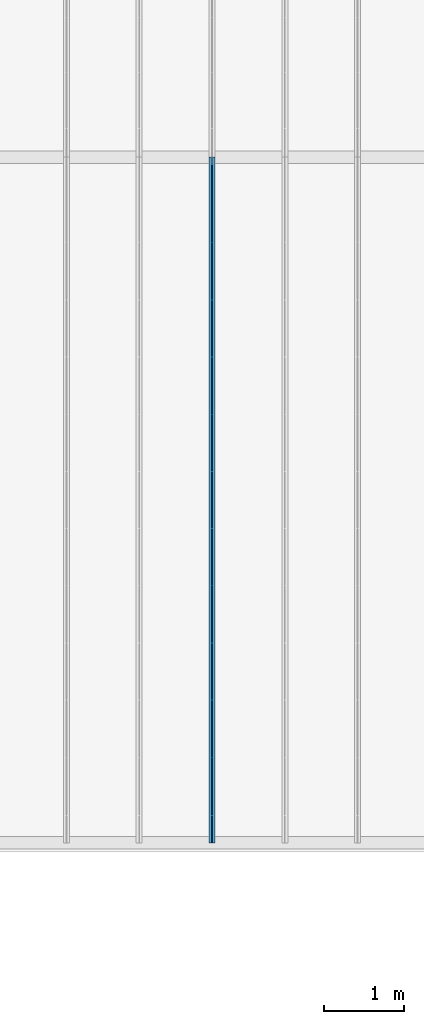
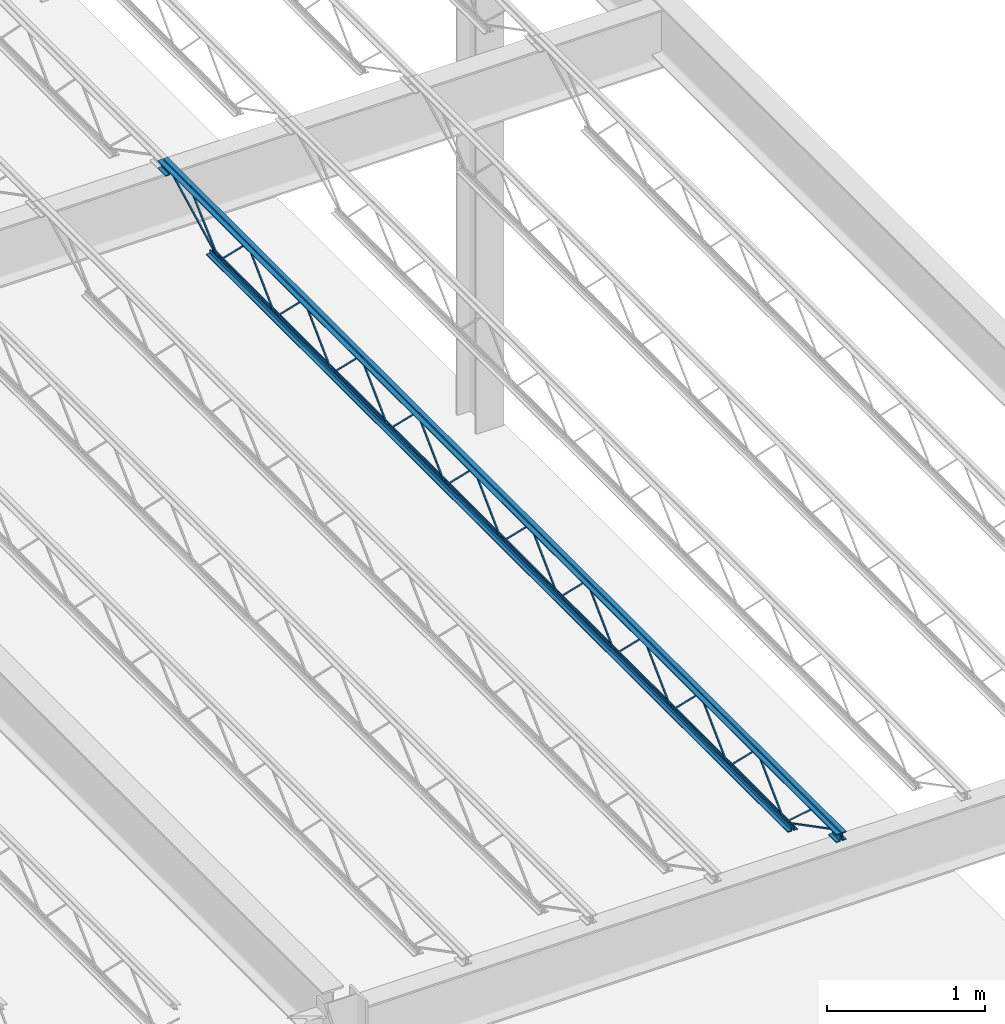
# One storey, part 67 of 119: 1 beam.
"""IFC2X3 building model written with IfcOpenShell, lengths in metres."""

import ifcopenshell
import ifcopenshell.guid

model = None  # the IFC model being written
_history = None  # IfcOwnerHistory: only IFC2X3 demands one
_inside = {}  # id of a spatial element -> (the spatial element, [elements in it])
_under = {}  # id of a project, library or spatial element -> (it, [spatial elements below it])
_declared = {}  # id of a project -> (the project, [libraries it declares])
_typed = {}  # id of a type object -> (the type object, [elements of that type])
_made_of = {}  # id of a material, layer set ... -> (it, [elements and type objects made of it])


def new_model(schema):
    """Start an empty IFC model of exactly this schema.

    Asked for "IFC4X3", IfcOpenShell would pick the latest addendum, in which some entities
    have other attributes; the version numbers below select the first issue.
    IFC2X3 requires an IfcOwnerHistory on every rooted entity: one is made here for all.
    """
    global model, _history
    if schema == "IFC4X3":
        model = ifcopenshell.file(schema_version=(4, 3, 0, 0))
    else:
        model = ifcopenshell.file(schema=schema)
    _inside.clear()
    _under.clear()
    _declared.clear()
    _typed.clear()
    _made_of.clear()
    _history = None
    if model.schema == "IFC2X3":
        org = make("IfcOrganization", Name="unknown")
        user = make(
            "IfcPersonAndOrganization",
            ThePerson=make("IfcPerson", FamilyName="unknown"),
            TheOrganization=org,
        )
        app = make(
            "IfcApplication",
            ApplicationDeveloper=org,
            Version="unknown",
            ApplicationFullName="unknown",
            ApplicationIdentifier="unknown",
        )
        _history = make(
            "IfcOwnerHistory",
            OwningUser=user,
            OwningApplication=app,
            ChangeAction="ADDED",
            CreationDate=0,
        )
    return model


def make(cls, **values):
    """One entity of the class cls with the attributes given. An attribute that is None is left unset."""
    return model.create_entity(
        cls, **{name: value for name, value in values.items() if value is not None}
    )


def entity(cls, *values):
    """Any entity or typed value of the class cls, its attributes in the order of the schema. None: left unset."""
    e = model.create_entity(cls)
    for i, value in enumerate(values):
        if value is not None:
            e[i] = value
    return e


def rooted(cls, **values):
    """An entity with a GlobalId (a new one), such as an element, a storey or a relation."""
    return make(cls, GlobalId=ifcopenshell.guid.new(), OwnerHistory=_history, **values)


def si_unit(unit_type, name, prefix=None):
    """IfcSIUnit, for example si_unit("LENGTHUNIT", "METRE", prefix="MILLI")."""
    return make("IfcSIUnit", UnitType=unit_type, Prefix=prefix, Name=name)


def converted_unit(unit_type, name, factor, base, dimensions=None, offset=None):
    """IfcConversionBasedUnit, such as the inch: factor (a typed value) times the base unit."""
    return make(
        "IfcConversionBasedUnit"
        if offset is None
        else "IfcConversionBasedUnitWithOffset",
        ConversionOffset=offset,
        Dimensions=None
        if dimensions is None
        else entity("IfcDimensionalExponents", *dimensions),
        UnitType=unit_type,
        Name=name,
        ConversionFactor=make(
            "IfcMeasureWithUnit", ValueComponent=factor, UnitComponent=base
        ),
    )


def assignment(units):
    """IfcUnitAssignment: the units of a project."""
    return None if units is None else make("IfcUnitAssignment", Units=units)


def point(xyz):
    """IfcCartesianPoint."""
    return None if xyz is None else make("IfcCartesianPoint", Coordinates=xyz)


def direction(xyz):
    """IfcDirection."""
    return None if xyz is None else make("IfcDirection", DirectionRatios=xyz)


def frame(location, z_axis=None, x_axis=None):
    """IfcAxis2Placement3D, a coordinate frame: its origin and axes. An axis left out is left unset."""
    return make(
        "IfcAxis2Placement3D",
        Location=point(location),
        Axis=direction(z_axis),
        RefDirection=direction(x_axis),
    )


def origin():
    """The frame at (0, 0, 0) with its axes left unset."""
    return frame((0.0, 0.0, 0.0))


def place(relative_to, where):
    """IfcLocalPlacement: puts the frame where relative to a parent placement (None: the world)."""
    return make(
        "IfcLocalPlacement", PlacementRelTo=relative_to, RelativePlacement=where
    )


def context(
    kind, dimensions, precision=None, world=None, true_north=None, identifier=None
):
    """IfcGeometricRepresentationContext, for example the 3D "Model" context."""
    return make(
        "IfcGeometricRepresentationContext",
        ContextIdentifier=identifier,
        ContextType=kind,
        CoordinateSpaceDimension=dimensions,
        Precision=precision,
        WorldCoordinateSystem=world,
        TrueNorth=true_north,
    )


def project(units=None, contexts=None):
    """IfcProject with its units and contexts."""
    return rooted(
        "IfcProject",
        Name="project",
        RepresentationContexts=contexts,
        UnitsInContext=assignment(units),
    )


def spatial(cls, under=None, at=None, **own):
    """A site, building, storey or space (cls), placed at a placement, below another one or the project."""
    s = rooted(cls, ObjectPlacement=at, **own)
    if under is not None:
        _under.setdefault(under.id(), (under, []))[1].append(s)
    return s


def faces_of(points, faces, orient=None, outer=None):
    """IfcFace entities. A face is a list of loops; a loop is a list of indices into points, from 0.

    orient and outer hold one flag for each loop. By default every Orientation is true, the
    first loop of a face is its IfcFaceOuterBound and the others are IfcFaceBound.
    """
    made = []
    for i, loops in enumerate(faces):
        bounds = []
        for j, loop in enumerate(loops):
            is_outer = j == 0 if outer is None else outer[i][j]
            bounds.append(
                make(
                    "IfcFaceOuterBound" if is_outer else "IfcFaceBound",
                    Bound=make("IfcPolyLoop", Polygon=[points[k] for k in loop]),
                    Orientation=True if orient is None else orient[i][j],
                )
            )
        made.append(make("IfcFace", Bounds=bounds))
    return made


def face_set(faces, orient=None, outer=None):
    """The faces of one IfcConnectedFaceSet. surface_model builds it on its shared points."""
    return ("IfcConnectedFaceSet", faces, orient, outer)


def surface_model(cls, points, shells):
    """IfcFaceBasedSurfaceModel or IfcShellBasedSurfaceModel (cls): surfaces that need not close."""
    shared = [point(p) for p in points]
    made = [make(c, CfsFaces=faces_of(shared, fs, o, b)) for c, fs, o, b in shells]
    if cls == "IfcFaceBasedSurfaceModel":
        return make(cls, FbsmFaces=made)
    return make(cls, SbsmBoundary=made)


def shape(context_of_items, identifier, shape_type, items):
    """IfcShapeRepresentation: the items that make up one representation, for example the "Body"."""
    return make(
        "IfcShapeRepresentation",
        ContextOfItems=context_of_items,
        RepresentationIdentifier=identifier,
        RepresentationType=shape_type,
        Items=items,
    )


def made_of(thing, what):
    """Note that an element or type object is made of a material, layer set ...; save() writes the relation."""
    if what is not None:
        _made_of.setdefault(what.id(), (what, []))[1].append(thing)
    return thing


def element(
    cls,
    number,
    at=None,
    inside=None,
    cuts=None,
    type_object=None,
    material=None,
    context=None,
    identifier="Body",
    shape_type=None,
    held_by="IfcProductDefinitionShape",
    body=None,
    shapes=None,
    **own,
):
    """One element of the class cls, such as IfcWall. Its Tag is "e" and its number.

    at: its placement. inside: the storey or other place that contains it. cuts: it is an
    opening in that element (IfcRelVoidsElement). A single representation is given by context,
    identifier, shape_type and body (its items); several are given by shapes. held_by: the class
    of the entity that holds the representations. save() writes the other relations.
    """
    e = rooted(cls, Tag="e%d" % number, ObjectPlacement=at, **own)
    if body is not None:
        shapes = [shape(context, identifier, shape_type, body)]
    if shapes is not None:
        e.Representation = make(held_by, Representations=shapes)
    if inside is not None:
        _inside.setdefault(inside.id(), (inside, []))[1].append(e)
    if cuts is not None:
        rooted(
            "IfcRelVoidsElement", RelatingBuildingElement=cuts, RelatedOpeningElement=e
        )
    if type_object is not None:
        _typed.setdefault(type_object.id(), (type_object, []))[1].append(e)
    return made_of(e, material)


def aggregate(whole, parts):
    """IfcRelAggregates: a whole, such as a stair, and the parts it consists of."""
    return rooted("IfcRelAggregates", RelatingObject=whole, RelatedObjects=parts)


def save(model, path):
    """Write the relations noted so far, then the file.

    IfcRelAggregates (storeys below a building ...), IfcRelContainedInSpatialStructure (elements
    in a storey), IfcRelDefinesByType, IfcRelAssociatesMaterial and IfcRelDeclares: one each for
    every whole, place, type object, material and project.
    """
    for whole, parts in _under.values():
        aggregate(whole, parts)
    for where, things in _inside.values():
        rooted(
            "IfcRelContainedInSpatialStructure",
            RelatedElements=things,
            RelatingStructure=where,
        )
    for kind, things in _typed.values():
        rooted("IfcRelDefinesByType", RelatedObjects=things, RelatingType=kind)
    for what, things in _made_of.values():
        rooted("IfcRelAssociatesMaterial", RelatedObjects=things, RelatingMaterial=what)
    for by, libraries in _declared.values():
        rooted("IfcRelDeclares", RelatingContext=by, RelatedDefinitions=libraries)
    model.write(path)


model = new_model("IFC2X3")

# Units and contexts
model_context = context("Model", 3, precision=1e-09, world=origin())
plan_context = context("Plan", 3, precision=1e-09, world=origin())
ifc_project = project(units=[si_unit("LENGTHUNIT", "METRE"), si_unit("AREAUNIT", "SQUARE_METRE"), si_unit("VOLUMEUNIT", "CUBIC_METRE"), converted_unit("PLANEANGLEUNIT", "DEGREE", entity("IfcRatioMeasure", 0.01745329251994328), si_unit("PLANEANGLEUNIT", "RADIAN"), dimensions=[0, 0, 0, 0, 0, 0, 0]), si_unit("TIMEUNIT", "SECOND")], contexts=[model_context, plan_context])

# Site, building, storey
site_placement = place(None, origin())
site = spatial("IfcSite", under=ifc_project, at=site_placement, Name="Default", CompositionType="ELEMENT")
building_placement = place(site_placement, origin())
building = spatial("IfcBuilding", under=site, at=building_placement, CompositionType="ELEMENT")
storey_placement = place(building_placement, frame((0.0, 0.0, 4.570000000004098)))
storey = spatial("IfcBuildingStorey", under=building, at=storey_placement, Name="Second Floor", CompositionType="ELEMENT", Elevation=4.570000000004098)

# Beam
beam_placement = place(storey_placement, frame((-3.676750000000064, 10.03999999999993, 4.323999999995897)))
element("IfcBeam", 1, at=beam_placement, inside=storey, Name="M_K-Series Bar Joist-Rod Web:14K1:14K1", ObjectType="M_K-Series Bar Joist-Rod Web:14K1", context=model_context, shape_type="SurfaceModel", body=[
    surface_model("IfcFaceBasedSurfaceModel", [(0.04150000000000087, 6.428799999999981, 0.01110000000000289), (0.03200000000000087, 6.428799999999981, 0.01110000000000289), (0.03200000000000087, 6.428799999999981, 0.001600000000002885), (0.04150000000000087, 6.428799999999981, 0.001600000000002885), (0.03200000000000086, 6.430038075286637, 0.01110000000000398), (0.04150000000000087, 6.430038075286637, 0.01110000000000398), (0.03200000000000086, 6.433911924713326, 0.001600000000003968), (0.03200000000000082, 6.784861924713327, 0.3449000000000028), (0.03200000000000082, 6.78733807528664, 0.3449000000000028), (0.03200000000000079, 7.138288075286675, 0.001600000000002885), (0.03200000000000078, 7.143399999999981, 0.001600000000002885), (0.03200000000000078, 7.143399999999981, 0.01110000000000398), (0.03200000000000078, 7.142161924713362, 0.01110000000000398), (0.03200000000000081, 6.791211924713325, 0.3544000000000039), (0.03200000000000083, 6.780988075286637, 0.3544000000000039), (0.04150000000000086, 6.433911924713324, 0.001600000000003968), (0.04150000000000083, 6.784861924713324, 0.3449000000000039), (0.04150000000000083, 6.787338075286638, 0.3449000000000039), (0.04150000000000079, 7.138288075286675, 0.001600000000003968), (0.04150000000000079, 7.143399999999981, 0.001600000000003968), (0.04150000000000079, 7.143399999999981, 0.01110000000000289), (0.04150000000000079, 7.142161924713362, 0.01110000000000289), (0.04150000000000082, 6.791211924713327, 0.3544000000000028), (0.04150000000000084, 6.780988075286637, 0.3544000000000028), (0.04150000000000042, 5.714199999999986, 0.01110000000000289), (0.03200000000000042, 5.714199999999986, 0.01110000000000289), (0.03200000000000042, 5.714199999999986, 0.001600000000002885), (0.04150000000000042, 5.714199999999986, 0.001600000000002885), (0.03200000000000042, 5.715438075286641, 0.01110000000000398), (0.04150000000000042, 5.715438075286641, 0.01110000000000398), (0.03200000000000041, 5.719311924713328, 0.001600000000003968), (0.03200000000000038, 6.070261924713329, 0.3449000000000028), (0.03200000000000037, 6.072738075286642, 0.3449000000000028), (0.03200000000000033, 6.423688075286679, 0.001600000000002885), (0.03200000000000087, 6.428799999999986, 0.001600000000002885), (0.03200000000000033, 6.428799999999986, 0.01110000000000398), (0.03200000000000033, 6.427561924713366, 0.01110000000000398), (0.03200000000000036, 6.076611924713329, 0.3544000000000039), (0.03200000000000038, 6.066388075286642, 0.3544000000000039), (0.04150000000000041, 5.719311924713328, 0.001600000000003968), (0.04150000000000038, 6.070261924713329, 0.3449000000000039), (0.04150000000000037, 6.072738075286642, 0.3449000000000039), (0.04150000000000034, 6.423688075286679, 0.001600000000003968), (0.04150000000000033, 6.428799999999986, 0.001600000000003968), (0.04150000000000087, 6.428799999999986, 0.01110000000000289), (0.04150000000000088, 6.427561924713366, 0.01110000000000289), (0.04150000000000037, 6.076611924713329, 0.3544000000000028), (0.04150000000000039, 6.066388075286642, 0.3544000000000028), (0.04150000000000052, 4.999599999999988, 0.01110000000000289), (0.03200000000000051, 4.999599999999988, 0.01110000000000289), (0.03200000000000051, 4.999599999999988, 0.001600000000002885), (0.04150000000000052, 4.999599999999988, 0.001600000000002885), (0.03200000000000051, 5.000838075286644, 0.01110000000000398), (0.04150000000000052, 5.000838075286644, 0.01110000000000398), (0.0320000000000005, 5.00471192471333, 0.001600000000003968), (0.03200000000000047, 5.35566192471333, 0.3449000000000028), (0.03200000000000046, 5.358138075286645, 0.3449000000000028), (0.03200000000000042, 5.709088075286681, 0.001600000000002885), (0.03200000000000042, 5.714199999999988, 0.001600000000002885), (0.03200000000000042, 5.714199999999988, 0.01110000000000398), (0.03200000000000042, 5.712961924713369, 0.01110000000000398), (0.03200000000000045, 5.362011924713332, 0.3544000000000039), (0.03200000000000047, 5.351788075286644, 0.3544000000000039), (0.04150000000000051, 5.00471192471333, 0.001600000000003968), (0.04150000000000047, 5.35566192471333, 0.3449000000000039), (0.04150000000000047, 5.358138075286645, 0.3449000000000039), (0.04150000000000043, 5.709088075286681, 0.001600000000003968), (0.04150000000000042, 5.714199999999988, 0.001600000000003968), (0.04150000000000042, 5.714199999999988, 0.01110000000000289), (0.04150000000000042, 5.712961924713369, 0.01110000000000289), (0.04150000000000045, 5.362011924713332, 0.3544000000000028), (0.04150000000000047, 5.351788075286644, 0.3544000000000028), (0.04150000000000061, 4.28499999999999, 0.01110000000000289), (0.0320000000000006, 4.28499999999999, 0.01110000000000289), (0.0320000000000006, 4.28499999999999, 0.001600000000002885), (0.04150000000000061, 4.28499999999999, 0.001600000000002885), (0.0320000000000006, 4.286238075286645, 0.01110000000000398), (0.0415000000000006, 4.286238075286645, 0.01110000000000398), (0.03200000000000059, 4.290111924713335, 0.001600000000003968), (0.03200000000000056, 4.641061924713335, 0.3449000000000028), (0.03200000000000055, 4.643538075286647, 0.3449000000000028), (0.03200000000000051, 4.994488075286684, 0.001600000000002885), (0.03200000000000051, 4.999599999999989, 0.001600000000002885), (0.03200000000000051, 4.999599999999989, 0.01110000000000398), (0.03200000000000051, 4.998361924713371, 0.01110000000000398), (0.03200000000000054, 4.647411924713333, 0.3544000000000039), (0.03200000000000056, 4.637188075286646, 0.3544000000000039), (0.0415000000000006, 4.290111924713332, 0.001600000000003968), (0.04150000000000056, 4.641061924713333, 0.3449000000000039), (0.04150000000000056, 4.643538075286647, 0.3449000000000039), (0.04150000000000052, 4.994488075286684, 0.001600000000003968), (0.04150000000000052, 4.999599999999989, 0.001600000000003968), (0.04150000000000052, 4.999599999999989, 0.01110000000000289), (0.04150000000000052, 4.998361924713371, 0.01110000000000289), (0.04150000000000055, 4.647411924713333, 0.3544000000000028), (0.04150000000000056, 4.637188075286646, 0.3544000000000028), (0.04150000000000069, 3.570399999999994, 0.01110000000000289), (0.03200000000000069, 3.570399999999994, 0.01110000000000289), (0.03200000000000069, 3.570399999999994, 0.001600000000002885), (0.04150000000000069, 3.570399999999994, 0.001600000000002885), (0.03200000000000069, 3.57163807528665, 0.01110000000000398), (0.04150000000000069, 3.57163807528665, 0.01110000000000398), (0.03200000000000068, 3.575511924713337, 0.001600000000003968), (0.03200000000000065, 3.926461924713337, 0.3449000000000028), (0.03200000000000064, 3.928938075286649, 0.3449000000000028), (0.0320000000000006, 4.279888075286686, 0.001600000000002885), (0.0320000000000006, 4.284999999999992, 0.001600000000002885), (0.0320000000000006, 4.284999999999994, 0.01110000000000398), (0.0320000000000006, 4.283761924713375, 0.01110000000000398), (0.03200000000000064, 3.932811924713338, 0.3544000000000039), (0.03200000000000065, 3.92258807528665, 0.3544000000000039), (0.04150000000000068, 3.575511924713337, 0.001600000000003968), (0.04150000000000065, 3.926461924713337, 0.3449000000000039), (0.04150000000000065, 3.928938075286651, 0.3449000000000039), (0.04150000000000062, 4.279888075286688, 0.001600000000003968), (0.04150000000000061, 4.284999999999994, 0.001600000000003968), (0.04150000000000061, 4.284999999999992, 0.01110000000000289), (0.04150000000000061, 4.283761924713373, 0.01110000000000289), (0.04150000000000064, 3.932811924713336, 0.3544000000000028), (0.04150000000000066, 3.92258807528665, 0.3544000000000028), (0.04150000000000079, 2.855799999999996, 0.01110000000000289), (0.03200000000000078, 2.855799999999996, 0.01110000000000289), (0.03200000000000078, 2.855799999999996, 0.001600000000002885), (0.04150000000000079, 2.855799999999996, 0.001600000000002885), (0.03200000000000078, 2.857038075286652, 0.01110000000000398), (0.04150000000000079, 2.857038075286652, 0.01110000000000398), (0.03200000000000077, 2.860911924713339, 0.001600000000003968), (0.03200000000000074, 3.21186192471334, 0.3449000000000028), (0.03200000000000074, 3.214338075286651, 0.3449000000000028), (0.0320000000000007, 3.565288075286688, 0.001600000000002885), (0.03200000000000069, 3.570399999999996, 0.01110000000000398), (0.03200000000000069, 3.569161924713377, 0.01110000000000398), (0.03200000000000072, 3.21821192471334, 0.3544000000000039), (0.03200000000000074, 3.207988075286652, 0.3544000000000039), (0.04150000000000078, 2.860911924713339, 0.001600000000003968), (0.04150000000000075, 3.21186192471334, 0.3449000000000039), (0.04150000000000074, 3.214338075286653, 0.3449000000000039), (0.0415000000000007, 3.56528807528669, 0.001600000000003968), (0.04150000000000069, 3.570399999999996, 0.001600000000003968), (0.0415000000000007, 3.569161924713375, 0.01110000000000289), (0.04150000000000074, 3.218211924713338, 0.3544000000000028), (0.04150000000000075, 3.207988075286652, 0.3544000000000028), (0.04150000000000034, 2.141199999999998, 0.01110000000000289), (0.03200000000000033, 2.141199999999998, 0.01110000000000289), (0.03200000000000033, 2.141199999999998, 0.001600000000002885), (0.04150000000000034, 2.141199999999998, 0.001600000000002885), (0.03200000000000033, 2.142438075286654, 0.01110000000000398), (0.04150000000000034, 2.142438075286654, 0.01110000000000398), (0.03200000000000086, 2.146311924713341, 0.001600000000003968), (0.03200000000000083, 2.497261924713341, 0.3449000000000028), (0.03200000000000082, 2.499738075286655, 0.3449000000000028), (0.03200000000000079, 2.85068807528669, 0.001600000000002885), (0.03200000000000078, 2.855799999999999, 0.001600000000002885), (0.03200000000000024, 2.855799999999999, 0.01110000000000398), (0.03200000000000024, 2.85456192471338, 0.01110000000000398), (0.03200000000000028, 2.503611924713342, 0.3544000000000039), (0.03200000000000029, 2.493388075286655, 0.3544000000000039), (0.04150000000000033, 2.146311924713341, 0.001600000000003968), (0.04150000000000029, 2.497261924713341, 0.3449000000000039), (0.04150000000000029, 2.499738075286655, 0.3449000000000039), (0.04150000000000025, 2.850688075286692, 0.001600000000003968), (0.04150000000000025, 2.855799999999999, 0.001600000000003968), (0.04150000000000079, 2.855799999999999, 0.01110000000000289), (0.04150000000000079, 2.85456192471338, 0.01110000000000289), (0.04150000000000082, 2.503611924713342, 0.3544000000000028), (0.04150000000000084, 2.493388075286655, 0.3544000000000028), (0.04150000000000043, 1.426600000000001, 0.01110000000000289), (0.03200000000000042, 1.426600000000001, 0.01110000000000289), (0.03200000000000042, 1.426600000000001, 0.001600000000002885), (0.04150000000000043, 1.426600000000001, 0.001600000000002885), (0.03200000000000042, 1.427838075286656, 0.01110000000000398), (0.04150000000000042, 1.427838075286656, 0.01110000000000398), (0.03200000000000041, 1.431711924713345, 0.001600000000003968), (0.03200000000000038, 1.782661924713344, 0.3449000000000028), (0.03200000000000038, 1.785138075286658, 0.3449000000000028), (0.03200000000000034, 2.136088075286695, 0.001600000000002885), (0.03200000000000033, 2.1412, 0.001600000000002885), (0.03200000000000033, 2.1412, 0.01110000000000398), (0.03200000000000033, 2.139961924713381, 0.01110000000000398), (0.03200000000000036, 1.789011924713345, 0.3544000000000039), (0.03200000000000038, 1.778788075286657, 0.3544000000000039), (0.04150000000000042, 1.431711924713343, 0.001600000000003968), (0.04150000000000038, 1.782661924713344, 0.3449000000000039), (0.04150000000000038, 1.785138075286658, 0.3449000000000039), (0.04150000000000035, 2.136088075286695, 0.001600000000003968), (0.04150000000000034, 2.1412, 0.001600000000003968), (0.04150000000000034, 2.1412, 0.01110000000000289), (0.04150000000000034, 2.139961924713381, 0.01110000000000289), (0.04150000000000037, 1.789011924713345, 0.3544000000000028), (0.04150000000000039, 1.778788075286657, 0.3544000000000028), (0.04150000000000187, 7.143399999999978, 0.01109999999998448), (0.03200000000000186, 7.143399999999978, 0.01109999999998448), (0.03200000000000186, 7.143399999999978, 0.001599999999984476), (0.04150000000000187, 7.143399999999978, 0.001599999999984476), (0.03200000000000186, 7.144638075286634, 0.01109999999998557), (0.04150000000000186, 7.144638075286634, 0.01109999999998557), (0.03200000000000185, 7.148511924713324, 0.001599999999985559), (0.03200000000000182, 7.499461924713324, 0.3448999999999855), (0.03200000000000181, 7.501938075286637, 0.3448999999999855), (0.03200000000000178, 7.852888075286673, 0.001599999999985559), (0.03200000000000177, 7.857999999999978, 0.001599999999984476), (0.03200000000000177, 7.857999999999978, 0.01109999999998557), (0.03200000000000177, 7.85676192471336, 0.01109999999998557), (0.03200000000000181, 7.505811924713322, 0.3543999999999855), (0.03200000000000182, 7.495588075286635, 0.3543999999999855), (0.04150000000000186, 7.148511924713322, 0.001599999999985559), (0.04150000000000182, 7.499461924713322, 0.3448999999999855), (0.04150000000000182, 7.501938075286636, 0.3448999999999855), (0.04150000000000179, 7.852888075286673, 0.001599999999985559), (0.04150000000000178, 7.857999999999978, 0.001599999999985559), (0.04150000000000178, 7.857999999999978, 0.01109999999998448), (0.04150000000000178, 7.85676192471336, 0.01109999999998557), (0.04150000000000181, 7.505811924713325, 0.3543999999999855), (0.04150000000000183, 7.495588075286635, 0.3543999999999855), (0.04150000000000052, 0.7120000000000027, 0.01110000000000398), (0.03200000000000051, 0.7120000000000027, 0.01110000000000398), (0.03200000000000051, 0.7120000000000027, 0.001600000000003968), (0.04150000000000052, 0.7120000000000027, 0.001600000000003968), (0.03200000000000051, 0.7132380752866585, 0.01110000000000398), (0.04150000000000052, 0.7132380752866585, 0.01110000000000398), (0.03200000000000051, 0.7171119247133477, 0.001600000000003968), (0.03200000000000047, 1.068061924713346, 0.3449000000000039), (0.03200000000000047, 1.07053807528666, 0.3449000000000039), (0.03200000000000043, 1.421488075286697, 0.001600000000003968), (0.03200000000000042, 1.426600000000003, 0.001600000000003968), (0.03200000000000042, 1.426600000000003, 0.01110000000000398), (0.03200000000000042, 1.425361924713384, 0.01110000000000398), (0.03200000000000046, 1.074411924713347, 0.3544000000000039), (0.03200000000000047, 1.064188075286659, 0.3544000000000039), (0.04150000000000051, 0.7171119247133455, 0.001600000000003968), (0.04150000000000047, 1.068061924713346, 0.3449000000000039), (0.04150000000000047, 1.07053807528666, 0.3449000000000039), (0.04150000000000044, 1.421488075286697, 0.001600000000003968), (0.04150000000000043, 1.426600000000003, 0.001600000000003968), (0.04150000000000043, 1.426600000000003, 0.01110000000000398), (0.04150000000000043, 1.425361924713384, 0.01110000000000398), (0.04150000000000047, 1.074411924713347, 0.3544000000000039), (0.04150000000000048, 1.064188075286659, 0.3544000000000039), (0.0320000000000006, 8.569999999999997, 0.3559999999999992), (0.0, 8.569999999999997, 0.3559999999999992), (0.0, 8.569999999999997, 0.3494999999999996), (0.02550000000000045, 8.569999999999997, 0.3494999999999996), (0.02550000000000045, 8.569999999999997, 0.3239999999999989), (0.0320000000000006, 8.569999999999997, 0.3239999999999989), (0.04150000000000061, 8.569999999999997, 0.3559999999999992), (0.04150000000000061, 8.569999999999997, 0.3239999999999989), (0.04800000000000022, 8.569999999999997, 0.3239999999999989), (0.04800000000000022, 8.569999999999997, 0.3494999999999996), (0.07350000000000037, 8.569999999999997, 0.3494999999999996), (0.07350000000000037, 8.569999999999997, 0.3559999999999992), (0.0320000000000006, 0.0, 0.3559999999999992), (0.0, 0.0, 0.3559999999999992), (0.0, 0.0, 0.3494999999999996), (0.02550000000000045, 0.0, 0.3494999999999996), (0.02550000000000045, 0.0, 0.3239999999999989), (0.0320000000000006, 0.0, 0.3239999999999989), (0.04150000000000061, 0.0, 0.3559999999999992), (0.04150000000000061, 0.0, 0.3239999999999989), (0.04800000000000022, 0.0, 0.3239999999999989), (0.04800000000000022, 0.0, 0.3494999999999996), (0.07350000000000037, 0.0, 0.3494999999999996), (0.07350000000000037, 0.0, 0.3559999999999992), (0.0414999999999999, 0.09999999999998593, 0.2924999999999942), (0.0735000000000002, 0.09999999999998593, 0.2924999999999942), (0.0735000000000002, 0.09999999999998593, 0.2989999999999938), (0.04800000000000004, 0.09999999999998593, 0.2989999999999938), (0.04800000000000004, 0.09999999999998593, 0.3239999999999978), (0.0414999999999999, 0.09999999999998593, 0.3239999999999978), (0.0, 0.09999999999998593, 0.2924999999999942), (0.03199999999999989, 0.09999999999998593, 0.2924999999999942), (0.03199999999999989, 0.09999999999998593, 0.3239999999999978), (0.02549999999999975, 0.09999999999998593, 0.3239999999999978), (0.02549999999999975, 0.09999999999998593, 0.2989999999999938), (0.0, 0.09999999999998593, 0.2989999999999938), (0.04150000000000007, 0.0, 0.2924999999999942), (0.07350000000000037, 0.0, 0.2924999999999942), (0.07350000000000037, 0.0, 0.2989999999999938), (0.04800000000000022, 0.0, 0.2989999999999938), (0.04800000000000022, 0.0, 0.3239999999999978), (0.04150000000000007, 0.0, 0.3239999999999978), (0.0, 0.0, 0.2924999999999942), (0.03200000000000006, 0.0, 0.2924999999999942), (0.03200000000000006, 0.0, 0.3239999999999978), (0.02549999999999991, 0.0, 0.3239999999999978), (0.02549999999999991, 0.0, 0.2989999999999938), (0.0, 0.0, 0.2989999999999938), (0.0320000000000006, 8.569999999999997, 0.2924999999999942), (0.0320000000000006, 8.569999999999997, 0.3239999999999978), (0.02550000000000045, 8.569999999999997, 0.3239999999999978), (0.02550000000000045, 8.569999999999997, 0.2989999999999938), (0.0, 8.569999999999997, 0.2989999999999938), (0.0, 8.569999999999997, 0.2924999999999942), (0.04150000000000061, 8.569999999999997, 0.2924999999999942), (0.07350000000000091, 8.569999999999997, 0.2924999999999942), (0.07350000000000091, 8.569999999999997, 0.2989999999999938), (0.04800000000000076, 8.569999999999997, 0.2989999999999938), (0.04800000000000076, 8.569999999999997, 0.3239999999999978), (0.04150000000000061, 8.569999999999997, 0.3239999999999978), (0.03200000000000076, 8.469999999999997, 0.2924999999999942), (0.03200000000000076, 8.469999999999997, 0.3239999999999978), (0.02550000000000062, 8.469999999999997, 0.3239999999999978), (0.02550000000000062, 8.469999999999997, 0.2989999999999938), (0.0, 8.469999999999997, 0.2989999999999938), (0.0, 8.469999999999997, 0.2924999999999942), (0.04150000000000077, 8.469999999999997, 0.2924999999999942), (0.07350000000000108, 8.469999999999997, 0.2924999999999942), (0.07350000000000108, 8.469999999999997, 0.2989999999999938), (0.04800000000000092, 8.469999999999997, 0.2989999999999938), (0.04800000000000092, 8.469999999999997, 0.3239999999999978), (0.04150000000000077, 8.469999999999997, 0.3239999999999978), (0.03200000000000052, 7.958000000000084, 0.0), (0.03200000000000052, 7.958000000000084, 0.03199999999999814), (0.02550000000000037, 7.958000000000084, 0.03199999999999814), (0.02550000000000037, 7.958000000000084, 0.006499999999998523), (0.0, 7.958000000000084, 0.006499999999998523), (0.0, 7.958000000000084, 0.0), (0.04150000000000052, 7.958000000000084, 0.0), (0.07350000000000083, 7.958000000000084, 0.0), (0.07350000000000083, 7.958000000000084, 0.006499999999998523), (0.04800000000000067, 7.958000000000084, 0.006499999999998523), (0.04800000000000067, 7.958000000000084, 0.03199999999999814), (0.04150000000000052, 7.958000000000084, 0.03199999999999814), (0.03200000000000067, 0.6120000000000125, 0.0), (0.03200000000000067, 0.6120000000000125, 0.03199999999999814), (0.02550000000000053, 0.6120000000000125, 0.03199999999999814), (0.02550000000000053, 0.6120000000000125, 0.006499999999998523), (0.0, 0.6120000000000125, 0.006499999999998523), (0.0, 0.6120000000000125, 0.0), (0.04150000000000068, 0.6120000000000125, 0.0), (0.073500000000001, 0.6120000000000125, 0.0), (0.073500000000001, 0.6120000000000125, 0.006499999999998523), (0.04800000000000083, 0.6120000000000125, 0.006499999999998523), (0.04800000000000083, 0.6120000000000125, 0.03199999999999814), (0.04150000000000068, 0.6120000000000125, 0.03199999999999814), (0.04150000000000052, 0.7141882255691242, 0.01056594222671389), (0.03200000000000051, 0.7141882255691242, 0.01056594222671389), (0.03200000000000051, 0.7098117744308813, 0.002134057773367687), (0.04150000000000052, 0.7098117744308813, 0.00213405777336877), (0.04150000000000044, 0.101159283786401, 0.3287499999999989), (0.04150000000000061, 0.0, 0.3287499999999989), (0.04150000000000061, 0.0, 0.3192499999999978), (0.04150000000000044, 0.09884071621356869, 0.3192499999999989), (0.03200000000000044, 0.09884071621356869, 0.3192499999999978), (0.03200000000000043, 0.101159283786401, 0.3287499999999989), (0.0320000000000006, 0.0, 0.3287499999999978), (0.0320000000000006, 0.0, 0.3192499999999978), (0.0415000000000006, 0.3347428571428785, 0.3417000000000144), (0.03200000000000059, 0.3347428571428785, 0.3417000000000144), (0.03200000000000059, 0.3347428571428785, 0.3322000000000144), (0.0415000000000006, 0.3347428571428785, 0.3322000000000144), (0.03200000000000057, 0.3492758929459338, 0.3417000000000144), (0.04150000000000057, 0.3492758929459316, 0.3417000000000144), (0.03200000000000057, 0.3456098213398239, 0.3322000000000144), (0.03200000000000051, 0.7088091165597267, 0.002831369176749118), (0.03200000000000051, 0.7151908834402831, 0.009868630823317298), (0.04150000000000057, 0.3456098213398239, 0.3322000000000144), (0.04150000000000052, 0.7088091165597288, 0.002831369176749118), (0.04150000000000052, 0.7151908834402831, 0.009868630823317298), (0.04150000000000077, 8.472188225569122, 0.3197840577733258), (0.04150000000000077, 8.467811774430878, 0.328215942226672), (0.03200000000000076, 8.467811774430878, 0.328215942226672), (0.03200000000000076, 8.472188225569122, 0.3197840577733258), (0.04150000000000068, 7.860188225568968, 0.002134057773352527), (0.04150000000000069, 7.855811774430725, 0.01056594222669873), (0.03200000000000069, 7.855811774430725, 0.01056594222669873), (0.03200000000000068, 7.860188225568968, 0.002134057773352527), (0.04150000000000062, 8.233036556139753, 0.3461600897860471), (0.04150000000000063, 8.226592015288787, 0.3531399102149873), (0.03200000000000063, 8.226592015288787, 0.3531399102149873), (0.03200000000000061, 8.233036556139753, 0.3461600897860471), (0.04150000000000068, 7.861222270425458, 0.00286008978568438), (0.04150000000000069, 7.854777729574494, 0.009839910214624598), (0.03200000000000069, 7.854777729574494, 0.009839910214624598), (0.03200000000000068, 7.861222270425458, 0.00286008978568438)], [face_set([[[0, 1, 2, 3]], [[1, 4, 5, 0]], [[2, 6, 7, 8, 9, 10, 11, 12, 13, 14, 4, 1]], [[3, 2, 6, 15]], [[0, 3, 15, 16, 17, 18, 19, 20, 21, 22, 23, 5]], [[4, 5, 23, 14]], [[15, 16, 7, 6]], [[14, 13, 22, 23]], [[16, 7, 8, 17]], [[13, 12, 21, 22]], [[17, 8, 9, 18]], [[20, 11, 10, 19]], [[12, 11, 20, 21]], [[18, 9, 10, 19]]]), face_set([[[24, 25, 26, 27]], [[25, 28, 29, 24]], [[26, 30, 31, 32, 33, 34, 35, 36, 37, 38, 28, 25]], [[27, 26, 30, 39]], [[24, 27, 39, 40, 41, 42, 43, 44, 45, 46, 47, 29]], [[28, 29, 47, 38]], [[39, 40, 31, 30]], [[38, 37, 46, 47]], [[40, 31, 32, 41]], [[37, 36, 45, 46]], [[41, 32, 33, 42]], [[44, 35, 34, 43]], [[36, 35, 44, 45]], [[42, 33, 34, 43]]]), face_set([[[48, 49, 50, 51]], [[49, 52, 53, 48]], [[50, 54, 55, 56, 57, 58, 59, 60, 61, 62, 52, 49]], [[51, 50, 54, 63]], [[48, 51, 63, 64, 65, 66, 67, 68, 69, 70, 71, 53]], [[52, 53, 71, 62]], [[63, 64, 55, 54]], [[62, 61, 70, 71]], [[64, 55, 56, 65]], [[61, 60, 69, 70]], [[65, 56, 57, 66]], [[68, 59, 58, 67]], [[60, 59, 68, 69]], [[66, 57, 58, 67]]]), face_set([[[72, 73, 74, 75]], [[73, 76, 77, 72]], [[74, 78, 79, 80, 81, 82, 83, 84, 85, 86, 76, 73]], [[75, 74, 78, 87]], [[72, 75, 87, 88, 89, 90, 91, 92, 93, 94, 95, 77]], [[76, 77, 95, 86]], [[87, 88, 79, 78]], [[86, 85, 94, 95]], [[88, 79, 80, 89]], [[85, 84, 93, 94]], [[89, 80, 81, 90]], [[92, 83, 82, 91]], [[84, 83, 92, 93]], [[90, 81, 82, 91]]]), face_set([[[96, 97, 98, 99]], [[97, 100, 101, 96]], [[98, 102, 103, 104, 105, 106, 107, 108, 109, 110, 100, 97]], [[99, 98, 102, 111]], [[96, 99, 111, 112, 113, 114, 115, 116, 117, 118, 119, 101]], [[100, 101, 119, 110]], [[111, 112, 103, 102]], [[110, 109, 118, 119]], [[112, 103, 104, 113]], [[109, 108, 117, 118]], [[113, 104, 105, 114]], [[116, 107, 106, 115]], [[108, 107, 116, 117]], [[114, 105, 106, 115]]]), face_set([[[120, 121, 122, 123]], [[121, 124, 125, 120]], [[122, 126, 127, 128, 129, 98, 130, 131, 132, 133, 124, 121]], [[123, 122, 126, 134]], [[120, 123, 134, 135, 136, 137, 138, 96, 139, 140, 141, 125]], [[124, 125, 141, 133]], [[134, 135, 127, 126]], [[133, 132, 140, 141]], [[135, 127, 128, 136]], [[132, 131, 139, 140]], [[136, 128, 129, 137]], [[96, 130, 98, 138]], [[131, 130, 96, 139]], [[137, 129, 98, 138]]]), face_set([[[142, 143, 144, 145]], [[143, 146, 147, 142]], [[144, 148, 149, 150, 151, 152, 153, 154, 155, 156, 146, 143]], [[145, 144, 148, 157]], [[142, 145, 157, 158, 159, 160, 161, 162, 163, 164, 165, 147]], [[146, 147, 165, 156]], [[157, 158, 149, 148]], [[156, 155, 164, 165]], [[158, 149, 150, 159]], [[155, 154, 163, 164]], [[159, 150, 151, 160]], [[162, 153, 152, 161]], [[154, 153, 162, 163]], [[160, 151, 152, 161]]]), face_set([[[166, 167, 168, 169]], [[167, 170, 171, 166]], [[168, 172, 173, 174, 175, 176, 177, 178, 179, 180, 170, 167]], [[169, 168, 172, 181]], [[166, 169, 181, 182, 183, 184, 185, 186, 187, 188, 189, 171]], [[170, 171, 189, 180]], [[181, 182, 173, 172]], [[180, 179, 188, 189]], [[182, 173, 174, 183]], [[179, 178, 187, 188]], [[183, 174, 175, 184]], [[186, 177, 176, 185]], [[178, 177, 186, 187]], [[184, 175, 176, 185]]]), face_set([[[190, 191, 192, 193]], [[191, 194, 195, 190]], [[192, 196, 197, 198, 199, 200, 201, 202, 203, 204, 194, 191]], [[193, 192, 196, 205]], [[190, 193, 205, 206, 207, 208, 209, 210, 211, 212, 213, 195]], [[194, 195, 213, 204]], [[205, 206, 197, 196]], [[204, 203, 212, 213]], [[206, 197, 198, 207]], [[203, 202, 211, 212]], [[207, 198, 199, 208]], [[210, 201, 200, 209]], [[202, 201, 210, 211]], [[208, 199, 200, 209]]]), face_set([[[214, 215, 216, 217]], [[215, 218, 219, 214]], [[216, 220, 221, 222, 223, 224, 225, 226, 227, 228, 218, 215]], [[217, 216, 220, 229]], [[214, 217, 229, 230, 231, 232, 233, 234, 235, 236, 237, 219]], [[218, 219, 237, 228]], [[229, 230, 221, 220]], [[228, 227, 236, 237]], [[230, 221, 222, 231]], [[227, 226, 235, 236]], [[231, 222, 223, 232]], [[234, 225, 224, 233]], [[226, 225, 234, 235]], [[232, 223, 224, 233]]]), face_set([[[238, 239, 240, 241, 242, 243]], [[244, 245, 246, 247, 248, 249]], [[250, 251, 252, 253, 254, 255]], [[256, 257, 258, 259, 260, 261]], [[243, 238, 250, 255]], [[242, 243, 255, 254]], [[241, 253, 254, 242]], [[240, 241, 253, 252]], [[239, 251, 252, 240]], [[238, 250, 251, 239]], [[249, 261, 256, 244]], [[248, 249, 261, 260]], [[247, 248, 260, 259]], [[246, 247, 259, 258]], [[245, 246, 258, 257]], [[244, 256, 257, 245]]]), face_set([[[262, 263, 264, 265, 266, 267]], [[268, 269, 270, 271, 272, 273]], [[274, 275, 276, 277, 278, 279]], [[280, 281, 282, 283, 284, 285]], [[267, 279, 274, 262]], [[266, 278, 279, 267]], [[265, 266, 278, 277]], [[264, 276, 277, 265]], [[263, 264, 276, 275]], [[262, 263, 275, 274]], [[273, 285, 280, 268]], [[272, 284, 285, 273]], [[271, 283, 284, 272]], [[270, 282, 283, 271]], [[269, 270, 282, 281]], [[268, 269, 281, 280]]]), face_set([[[286, 287, 288, 289, 290, 291]], [[292, 293, 294, 295, 296, 297]], [[298, 299, 300, 301, 302, 303]], [[304, 305, 306, 307, 308, 309]], [[291, 286, 298, 303]], [[290, 302, 303, 291]], [[289, 301, 302, 290]], [[288, 300, 301, 289]], [[287, 299, 300, 288]], [[286, 287, 299, 298]], [[297, 309, 304, 292]], [[296, 308, 309, 297]], [[295, 296, 308, 307]], [[294, 306, 307, 295]], [[293, 294, 306, 305]], [[292, 293, 305, 304]]]), face_set([[[310, 311, 312, 313, 314, 315]], [[316, 317, 318, 319, 320, 321]], [[322, 323, 324, 325, 326, 327]], [[328, 329, 330, 331, 332, 333]], [[315, 310, 322, 327]], [[314, 326, 327, 315]], [[313, 325, 326, 314]], [[312, 324, 325, 313]], [[311, 323, 324, 312]], [[310, 311, 323, 322]], [[321, 333, 328, 316]], [[320, 332, 333, 321]], [[319, 320, 332, 331]], [[318, 330, 331, 319]], [[317, 318, 330, 329]], [[316, 317, 329, 328]]]), face_set([[[334, 335, 336, 337]], [[337, 334, 338, 339, 340, 341]], [[336, 337, 341, 342]], [[335, 343, 344, 345, 342, 336]], [[334, 338, 343, 335]], [[339, 344, 345, 340]], [[342, 341, 340, 345]], [[338, 339, 344, 343]]]), face_set([[[346, 347, 348, 349]], [[347, 350, 351, 346]], [[348, 352, 353, 354, 350, 347]], [[349, 348, 352, 355]], [[346, 349, 355, 356, 357, 351]], [[357, 354, 353, 356]], [[350, 354, 357, 351]], [[355, 352, 353, 356]]]), face_set([[[358, 359, 360, 361]], [[362, 363, 364, 365]], [[361, 358, 362, 365]], [[360, 364, 365, 361]], [[359, 363, 364, 360]], [[358, 359, 363, 362]]]), face_set([[[366, 367, 368, 369]], [[370, 371, 372, 373]], [[369, 373, 370, 366]], [[368, 372, 373, 369]], [[367, 368, 372, 371]], [[366, 367, 371, 370]]])]),
])

save(model, "model.ifc")
